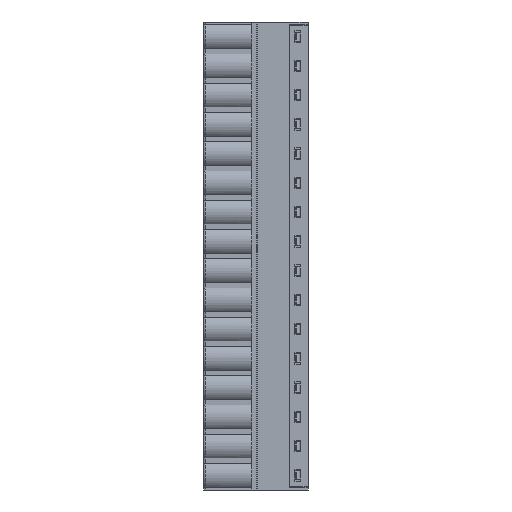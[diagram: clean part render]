
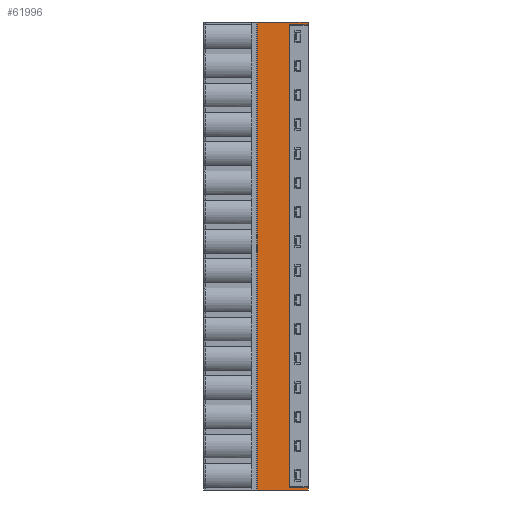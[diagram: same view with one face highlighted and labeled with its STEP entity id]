
A CAD part, left-side view. The second image highlights one B-rep face of the part: STEP entity #61996.
In plain terms, the highlighted planar face has unit normal (-1, 0, 0).
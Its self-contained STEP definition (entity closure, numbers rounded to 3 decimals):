
#140 = CARTESIAN_POINT ( 'NONE',  ( -3.9, 0., 0. ) ) ;
#307 = ORIENTED_EDGE ( 'NONE', *, *, #39558, .F. ) ;
#1007 = LINE ( 'NONE', #57093, #13606 ) ;
#1844 = VERTEX_POINT ( 'NONE', #3862 ) ;
#2400 = CARTESIAN_POINT ( 'NONE',  ( -3.9, 0.967, 0.49 ) ) ;
#3862 = CARTESIAN_POINT ( 'NONE',  ( -3.9, 3.3, 80.788 ) ) ;
#4371 = EDGE_CURVE ( 'NONE', #47211, #24044, #23069, .T. ) ;
#5514 = AXIS2_PLACEMENT_3D ( 'NONE', #46146, #30006, #60354 ) ;
#5931 = CARTESIAN_POINT ( 'NONE',  ( -3.9, 8.8, 0. ) ) ;
#6562 = ORIENTED_EDGE ( 'NONE', *, *, #43273, .F. ) ;
#6695 = CARTESIAN_POINT ( 'NONE',  ( -3.9, 8.8, 81.28 ) ) ;
#7139 = DIRECTION ( 'NONE',  ( 0., -1., 0. ) ) ;
#7563 = VECTOR ( 'NONE', #7139, 1000. ) ;
#7624 = DIRECTION ( 'NONE',  ( 0., 0., -1. ) ) ;
#8595 = CARTESIAN_POINT ( 'NONE',  ( -3.9, 2.9, 0.49 ) ) ;
#8683 = EDGE_CURVE ( 'NONE', #28099, #21254, #34228, .T. ) ;
#11264 = ORIENTED_EDGE ( 'NONE', *, *, #8683, .T. ) ;
#11619 = CARTESIAN_POINT ( 'NONE',  ( -3.9, 1.933, 0.49 ) ) ;
#12842 = DIRECTION ( 'NONE',  ( 0., -1., 0. ) ) ;
#12874 = LINE ( 'NONE', #48840, #65094 ) ;
#13564 = ORIENTED_EDGE ( 'NONE', *, *, #43786, .T. ) ;
#13606 = VECTOR ( 'NONE', #61722, 1000. ) ;
#13733 = VERTEX_POINT ( 'NONE', #63493 ) ;
#14445 = CARTESIAN_POINT ( 'NONE',  ( -3.9, 3.3, 0.492 ) ) ;
#14731 = CARTESIAN_POINT ( 'NONE',  ( -3.9, 2.9, 80.79 ) ) ;
#16114 = EDGE_CURVE ( 'NONE', #1844, #28099, #41482, .T. ) ;
#16532 = ORIENTED_EDGE ( 'NONE', *, *, #19235, .F. ) ;
#16570 = CARTESIAN_POINT ( 'NONE',  ( -3.9, 0., 0.49 ) ) ;
#17009 = LINE ( 'NONE', #43416, #7563 ) ;
#19149 = CARTESIAN_POINT ( 'NONE',  ( -3.9, 3.3, 0.492 ) ) ;
#19235 = EDGE_CURVE ( 'NONE', #47262, #13733, #41879, .T. ) ;
#21254 = VERTEX_POINT ( 'NONE', #64554 ) ;
#21408 = EDGE_CURVE ( 'NONE', #47211, #30885, #27457, .T. ) ;
#21529 = DIRECTION ( 'NONE',  ( 0., 0., -1. ) ) ;
#21873 = CARTESIAN_POINT ( 'NONE',  ( -3.9, 3.033, 80.789 ) ) ;
#23069 = LINE ( 'NONE', #58054, #60061 ) ;
#24044 = VERTEX_POINT ( 'NONE', #62194 ) ;
#24078 = LINE ( 'NONE', #64345, #47558 ) ;
#24092 = CARTESIAN_POINT ( 'NONE',  ( -3.9, 3.033, 0.491 ) ) ;
#24137 = B_SPLINE_CURVE_WITH_KNOTS ( 'NONE', 3,
 ( #32092, #11619, #2400, #37368 ),
 .UNSPECIFIED., .F., .F.,
 ( 4, 4 ),
 ( 0., 1. ),
 .UNSPECIFIED. ) ;
#24253 = VECTOR ( 'NONE', #21529, 1000. ) ;
#27457 = LINE ( 'NONE', #6695, #24253 ) ;
#28099 = VERTEX_POINT ( 'NONE', #46213 ) ;
#30006 = DIRECTION ( 'NONE',  ( -1., 0., 0. ) ) ;
#30885 = VERTEX_POINT ( 'NONE', #5931 ) ;
#32092 = CARTESIAN_POINT ( 'NONE',  ( -3.9, 2.9, 0.49 ) ) ;
#34228 = B_SPLINE_CURVE_WITH_KNOTS ( 'NONE', 3,
 ( #53437, #59355, #59689, #38582 ),
 .UNSPECIFIED., .F., .F.,
 ( 4, 4 ),
 ( 0., 1. ),
 .UNSPECIFIED. ) ;
#34956 = FACE_OUTER_BOUND ( 'NONE', #44975, .T. ) ;
#36383 = ORIENTED_EDGE ( 'NONE', *, *, #16114, .T. ) ;
#37368 = CARTESIAN_POINT ( 'NONE',  ( -3.9, 0., 0.49 ) ) ;
#38115 = ORIENTED_EDGE ( 'NONE', *, *, #21408, .T. ) ;
#38582 = CARTESIAN_POINT ( 'NONE',  ( -3.9, 0., 80.79 ) ) ;
#39558 = EDGE_CURVE ( 'NONE', #59984, #42979, #1007, .T. ) ;
#41482 = B_SPLINE_CURVE_WITH_KNOTS ( 'NONE', 3,
 ( #51925, #50697, #21873, #14731 ),
 .UNSPECIFIED., .F., .F.,
 ( 4, 4 ),
 ( 0., 1. ),
 .UNSPECIFIED. ) ;
#41791 = ORIENTED_EDGE ( 'NONE', *, *, #4371, .F. ) ;
#41879 = B_SPLINE_CURVE_WITH_KNOTS ( 'NONE', 3,
 ( #19149, #59074, #24092, #8595 ),
 .UNSPECIFIED., .F., .F.,
 ( 4, 4 ),
 ( 0., 1. ),
 .UNSPECIFIED. ) ;
#42979 = VERTEX_POINT ( 'NONE', #140 ) ;
#43273 = EDGE_CURVE ( 'NONE', #1844, #47262, #24078, .T. ) ;
#43416 = CARTESIAN_POINT ( 'NONE',  ( -3.9, 8.8, 0. ) ) ;
#43786 = EDGE_CURVE ( 'NONE', #30885, #42979, #17009, .T. ) ;
#44975 = EDGE_LOOP ( 'NONE', ( #13564, #307, #57045, #16532, #6562, #36383, #11264, #46645, #41791, #38115 ) ) ;
#46146 = CARTESIAN_POINT ( 'NONE',  ( -3.9, 8.9, 0. ) ) ;
#46213 = CARTESIAN_POINT ( 'NONE',  ( -3.9, 2.9, 80.79 ) ) ;
#46645 = ORIENTED_EDGE ( 'NONE', *, *, #56207, .F. ) ;
#47211 = VERTEX_POINT ( 'NONE', #64613 ) ;
#47262 = VERTEX_POINT ( 'NONE', #14445 ) ;
#47558 = VECTOR ( 'NONE', #59388, 1000. ) ;
#48840 = CARTESIAN_POINT ( 'NONE',  ( -3.9, 0., 81.28 ) ) ;
#50697 = CARTESIAN_POINT ( 'NONE',  ( -3.9, 3.167, 80.788 ) ) ;
#51112 = PLANE ( 'NONE',  #5514 ) ;
#51925 = CARTESIAN_POINT ( 'NONE',  ( -3.9, 3.3, 80.788 ) ) ;
#53437 = CARTESIAN_POINT ( 'NONE',  ( -3.9, 2.9, 80.79 ) ) ;
#56207 = EDGE_CURVE ( 'NONE', #24044, #21254, #12874, .T. ) ;
#57045 = ORIENTED_EDGE ( 'NONE', *, *, #60018, .F. ) ;
#57093 = CARTESIAN_POINT ( 'NONE',  ( -3.9, 0., 0.49 ) ) ;
#58054 = CARTESIAN_POINT ( 'NONE',  ( -3.9, 8.8, 81.28 ) ) ;
#59074 = CARTESIAN_POINT ( 'NONE',  ( -3.9, 3.167, 0.492 ) ) ;
#59355 = CARTESIAN_POINT ( 'NONE',  ( -3.9, 1.933, 80.79 ) ) ;
#59388 = DIRECTION ( 'NONE',  ( 0., 0., -1. ) ) ;
#59689 = CARTESIAN_POINT ( 'NONE',  ( -3.9, 0.967, 80.79 ) ) ;
#59984 = VERTEX_POINT ( 'NONE', #16570 ) ;
#60018 = EDGE_CURVE ( 'NONE', #13733, #59984, #24137, .T. ) ;
#60061 = VECTOR ( 'NONE', #12842, 1000. ) ;
#60354 = DIRECTION ( 'NONE',  ( 0., 0., 1. ) ) ;
#61722 = DIRECTION ( 'NONE',  ( 0., 0., -1. ) ) ;
#61996 = ADVANCED_FACE ( 'NONE', ( #34956 ), #51112, .T. ) ;
#62194 = CARTESIAN_POINT ( 'NONE',  ( -3.9, 0., 81.28 ) ) ;
#63493 = CARTESIAN_POINT ( 'NONE',  ( -3.9, 2.9, 0.49 ) ) ;
#64345 = CARTESIAN_POINT ( 'NONE',  ( -3.9, 3.3, 80.788 ) ) ;
#64554 = CARTESIAN_POINT ( 'NONE',  ( -3.9, 0., 80.79 ) ) ;
#64613 = CARTESIAN_POINT ( 'NONE',  ( -3.9, 8.8, 81.28 ) ) ;
#65094 = VECTOR ( 'NONE', #7624, 1000. ) ;
